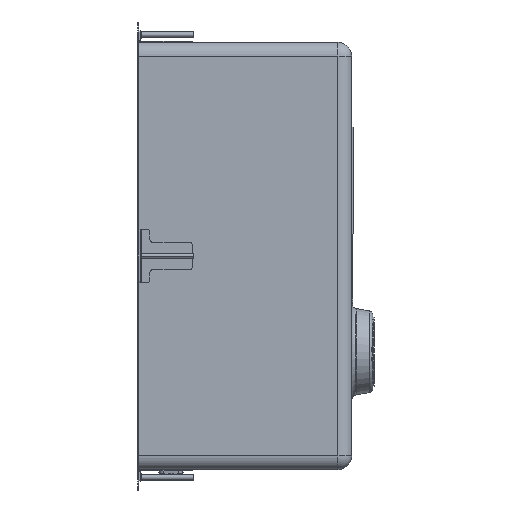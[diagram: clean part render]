
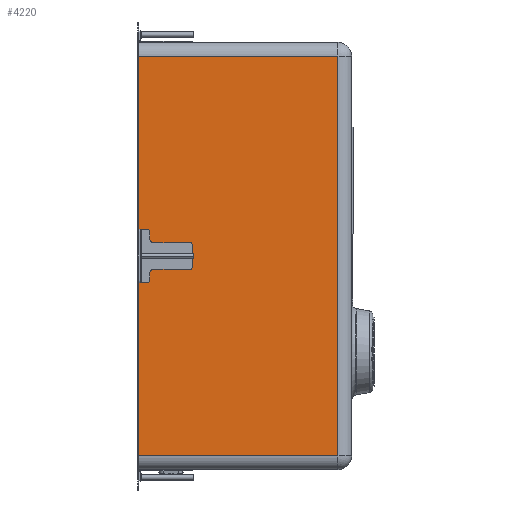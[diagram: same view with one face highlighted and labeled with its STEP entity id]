
A CAD part, left-side view. The second image highlights one B-rep face of the part: STEP entity #4220.
In plain terms, the highlighted planar face has unit normal (-1, 0, 0).
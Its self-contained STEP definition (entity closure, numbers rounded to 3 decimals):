
#735 = LINE ( 'NONE', #3443, #4103 ) ;
#1260 = CARTESIAN_POINT ( 'NONE',  ( 19.1, -200., 20. ) ) ;
#1394 = VERTEX_POINT ( 'NONE', #7903 ) ;
#1448 = DIRECTION ( 'NONE',  ( 0., 0., -1. ) ) ;
#2164 = EDGE_CURVE ( 'NONE', #1394, #9775, #10242, .T. ) ;
#2176 = FACE_OUTER_BOUND ( 'NONE', #4439, .T. ) ;
#2280 = EDGE_CURVE ( 'NONE', #6118, #1394, #735, .T. ) ;
#3060 = CARTESIAN_POINT ( 'NONE',  ( 19.1, -188., 408. ) ) ;
#3443 = CARTESIAN_POINT ( 'NONE',  ( 19.1, -200., 32. ) ) ;
#3861 = ORIENTED_EDGE ( 'NONE', *, *, #9291, .F. ) ;
#3898 = DIRECTION ( 'NONE',  ( 0., 0., 1. ) ) ;
#4103 = VECTOR ( 'NONE', #4365, 1000. ) ;
#4220 = ADVANCED_FACE ( 'NONE', ( #2176 ), #6766, .T. ) ;
#4228 = VECTOR ( 'NONE', #1448, 1000. ) ;
#4253 = VECTOR ( 'NONE', #9845, 1000. ) ;
#4365 = DIRECTION ( 'NONE',  ( 0., 1., 0. ) ) ;
#4439 = EDGE_LOOP ( 'NONE', ( #9131, #8122, #3861, #7871 ) ) ;
#4552 = CARTESIAN_POINT ( 'NONE',  ( 19.1, -188., 32. ) ) ;
#4927 = CARTESIAN_POINT ( 'NONE',  ( 19.1, -0.9, 0. ) ) ;
#5649 = DIRECTION ( 'NONE',  ( 0., 0., 1. ) ) ;
#6118 = VERTEX_POINT ( 'NONE', #4552 ) ;
#6341 = CARTESIAN_POINT ( 'NONE',  ( 19.1, -200., 408. ) ) ;
#6766 = PLANE ( 'NONE',  #8924 ) ;
#7039 = VECTOR ( 'NONE', #5649, 1000. ) ;
#7871 = ORIENTED_EDGE ( 'NONE', *, *, #10851, .F. ) ;
#7903 = CARTESIAN_POINT ( 'NONE',  ( 19.1, -0.9, 32. ) ) ;
#8122 = ORIENTED_EDGE ( 'NONE', *, *, #2280, .F. ) ;
#8358 = CARTESIAN_POINT ( 'NONE',  ( 19.1, -0.9, 408. ) ) ;
#8924 = AXIS2_PLACEMENT_3D ( 'NONE', #1260, #10920, #3898 ) ;
#8982 = LINE ( 'NONE', #6341, #4253 ) ;
#9131 = ORIENTED_EDGE ( 'NONE', *, *, #2164, .F. ) ;
#9288 = CARTESIAN_POINT ( 'NONE',  ( 19.1, -188., 20. ) ) ;
#9291 = EDGE_CURVE ( 'NONE', #9770, #6118, #11113, .T. ) ;
#9770 = VERTEX_POINT ( 'NONE', #3060 ) ;
#9775 = VERTEX_POINT ( 'NONE', #8358 ) ;
#9845 = DIRECTION ( 'NONE',  ( 0., -1., 0. ) ) ;
#10242 = LINE ( 'NONE', #4927, #7039 ) ;
#10851 = EDGE_CURVE ( 'NONE', #9775, #9770, #8982, .T. ) ;
#10920 = DIRECTION ( 'NONE',  ( -1., 0., 0. ) ) ;
#11113 = LINE ( 'NONE', #9288, #4228 ) ;
